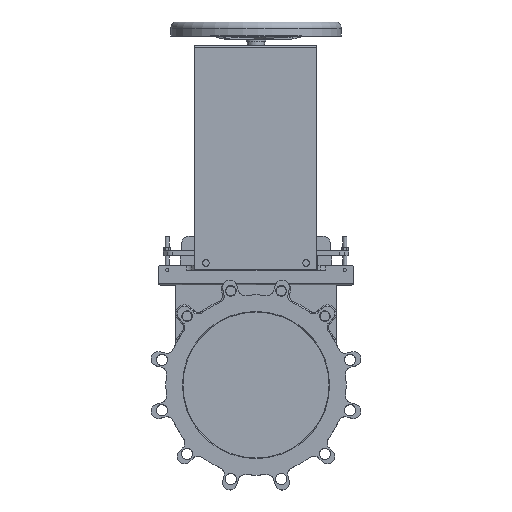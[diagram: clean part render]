
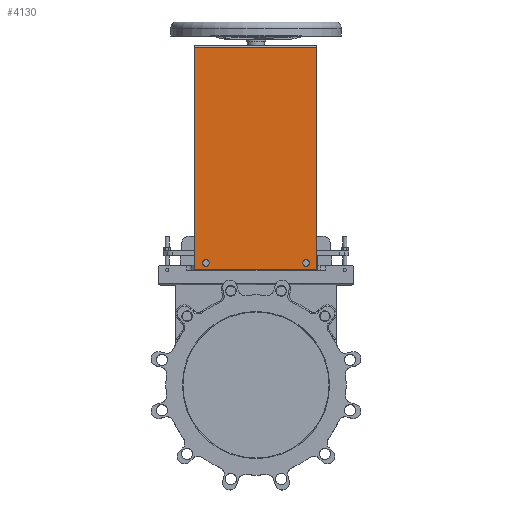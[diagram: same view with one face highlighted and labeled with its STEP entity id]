
A CAD part, top view. The second image highlights one B-rep face of the part: STEP entity #4130.
In plain terms, the highlighted planar face has unit normal (0, 0, 1).
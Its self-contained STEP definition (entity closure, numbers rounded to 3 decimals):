
#4130=ADVANCED_FACE('',(#11439,#11441,#11443),#11445,.F.);
#11439=FACE_BOUND('',#11440,.T.);
#11440=EDGE_LOOP('',(#17206,#17207,#17208,#17209));
#11441=FACE_BOUND('',#11442,.T.);
#11442=EDGE_LOOP('',(#17210));
#11443=FACE_BOUND('',#11444,.T.);
#11444=EDGE_LOOP('',(#17211));
#11445=PLANE('',#11446);
#11446=AXIS2_PLACEMENT_3D('',#11447,#11448,#11449);
#11447=CARTESIAN_POINT('',(-1.,444.179,41.));
#11448=DIRECTION('',(0.,0.,-1.));
#11449=DIRECTION('',(-1.,0.,0.));
#17206=ORIENTED_EDGE('',*,*,#20088,.F.);
#17207=ORIENTED_EDGE('',*,*,#19825,.F.);
#17208=ORIENTED_EDGE('',*,*,#19894,.F.);
#17209=ORIENTED_EDGE('',*,*,#19818,.F.);
#17210=ORIENTED_EDGE('',*,*,#20089,.F.);
#17211=ORIENTED_EDGE('',*,*,#20090,.F.);
#19818=EDGE_CURVE('',#22711,#22713,#22714,.T.);
#19825=EDGE_CURVE('',#22722,#22724,#22725,.T.);
#19894=EDGE_CURVE('',#22713,#22722,#22814,.T.);
#20088=EDGE_CURVE('',#22724,#22711,#23105,.T.);
#20089=EDGE_CURVE('',#23106,#23106,#23107,.T.);
#20090=EDGE_CURVE('',#23108,#23108,#23109,.F.);
#22711=VERTEX_POINT('',#34254);
#22713=VERTEX_POINT('',#34259);
#22714=LINE('',#34260,#34261);
#22722=VERTEX_POINT('',#34282);
#22724=VERTEX_POINT('',#34286);
#22725=LINE('',#34287,#34288);
#22814=LINE('',#34544,#34545);
#23105=LINE('',#36211,#36212);
#23106=VERTEX_POINT('',#36214);
#23107=CIRCLE('',#36215,6.5);
#23108=VERTEX_POINT('',#36219);
#23109=CIRCLE('',#36220,6.5);
#34254=CARTESIAN_POINT('',(124.913,692.179,41.));
#34259=CARTESIAN_POINT('',(124.913,236.434,41.));
#34260=CARTESIAN_POINT('',(124.913,692.179,41.));
#34261=VECTOR('',#34262,1.);
#34262=DIRECTION('',(0.,-1.,0.));
#34282=CARTESIAN_POINT('',(-126.913,236.434,41.));
#34286=CARTESIAN_POINT('',(-126.913,692.179,41.));
#34287=CARTESIAN_POINT('',(-126.913,236.434,41.));
#34288=VECTOR('',#34289,1.);
#34289=DIRECTION('',(0.,1.,0.));
#34544=CARTESIAN_POINT('',(124.913,236.434,41.));
#34545=VECTOR('',#34546,1.);
#34546=DIRECTION('',(-1.,0.,0.));
#36211=CARTESIAN_POINT('',(-126.913,692.179,41.));
#36212=VECTOR('',#36213,1.);
#36213=DIRECTION('',(1.,0.,0.));
#36214=CARTESIAN_POINT('',(96.296,250.434,41.));
#36215=AXIS2_PLACEMENT_3D('',#36216,#36217,#36218);
#36216=CARTESIAN_POINT('',(102.796,250.434,41.));
#36217=DIRECTION('',(0.,0.,1.));
#36218=DIRECTION('',(-1.,0.,0.));
#36219=CARTESIAN_POINT('',(-96.296,250.434,41.));
#36220=AXIS2_PLACEMENT_3D('',#36221,#36222,#36223);
#36221=CARTESIAN_POINT('',(-102.796,250.434,41.));
#36222=DIRECTION('',(0.,0.,-1.));
#36223=DIRECTION('',(1.,0.,0.));
